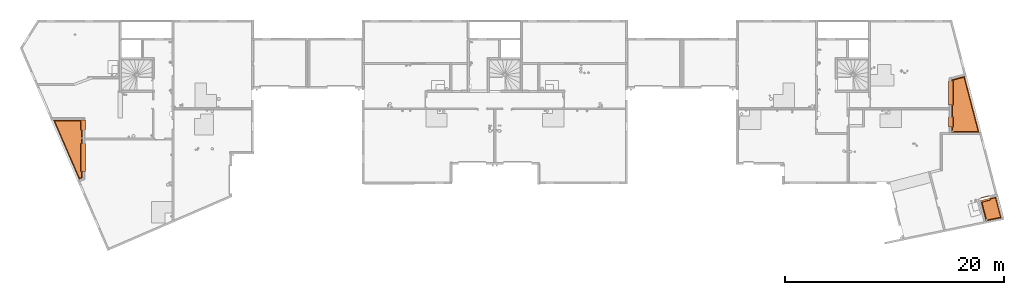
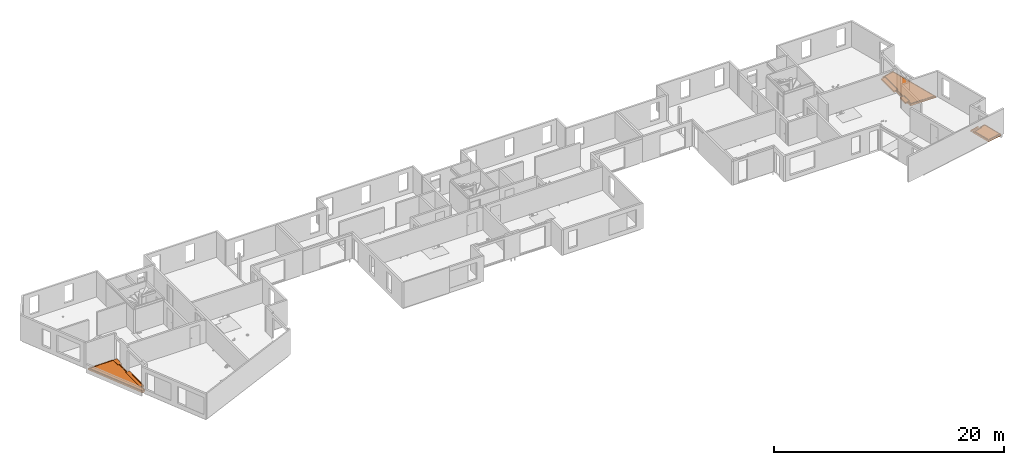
# One storey, part 30 of 30: 3 proxies.
"""IFC2X3 building model written with IfcOpenShell, lengths in centimetres."""

from ifc_helpers import new_model, entity, si_unit, converted_unit, derived_unit, direction, frame, origin, place, context, subcontext, project, spatial, faceted_brep, source, transform, mapped, material, type_object, type_shapes, element, save


model = new_model("IFC2X3")

# Units and contexts
model_context = context("Model", 3, precision=0.001, world=origin(), true_north=direction((6.12303176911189e-17, 1.0)))
body_context = subcontext(model_context, "Body", "Model", "MODEL_VIEW")
ifc_project = project(units=[si_unit("LENGTHUNIT", "METRE", prefix="CENTI"), si_unit("AREAUNIT", "SQUARE_METRE"), si_unit("VOLUMEUNIT", "CUBIC_METRE"), converted_unit("PLANEANGLEUNIT", "DEGREE", entity("IfcRatioMeasure", 0.0174532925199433), si_unit("PLANEANGLEUNIT", "RADIAN"), dimensions=[0, 0, 0, 0, 0, 0, 0]), si_unit("MASSUNIT", "GRAM", prefix="KILO"), derived_unit("MASSDENSITYUNIT", [(si_unit("MASSUNIT", "GRAM", prefix="KILO"), 1), (si_unit("LENGTHUNIT", "METRE"), -3)]), si_unit("TIMEUNIT", "SECOND"), si_unit("FREQUENCYUNIT", "HERTZ"), si_unit("THERMODYNAMICTEMPERATUREUNIT", "DEGREE_CELSIUS"), derived_unit("THERMALTRANSMITTANCEUNIT", [(si_unit("MASSUNIT", "GRAM", prefix="KILO"), 1), (si_unit("THERMODYNAMICTEMPERATUREUNIT", "KELVIN"), -1), (si_unit("TIMEUNIT", "SECOND"), -3)]), derived_unit("VOLUMETRICFLOWRATEUNIT", [(si_unit("LENGTHUNIT", "METRE"), 3), (si_unit("TIMEUNIT", "SECOND"), -1)]), si_unit("ELECTRICCURRENTUNIT", "AMPERE"), si_unit("ELECTRICVOLTAGEUNIT", "VOLT"), si_unit("POWERUNIT", "WATT"), si_unit("FORCEUNIT", "NEWTON"), si_unit("ILLUMINANCEUNIT", "LUX"), si_unit("LUMINOUSFLUXUNIT", "LUMEN"), si_unit("LUMINOUSINTENSITYUNIT", "CANDELA"), derived_unit("USERDEFINED", [(si_unit("MASSUNIT", "GRAM", prefix="KILO"), -1), (si_unit("LENGTHUNIT", "METRE"), -2), (si_unit("TIMEUNIT", "SECOND"), 3), (si_unit("LUMINOUSFLUXUNIT", "LUMEN"), 1)]), derived_unit("LINEARVELOCITYUNIT", [(si_unit("LENGTHUNIT", "METRE"), 1), (si_unit("TIMEUNIT", "SECOND"), -1)]), si_unit("PRESSUREUNIT", "PASCAL"), derived_unit("USERDEFINED", [(si_unit("LENGTHUNIT", "METRE"), -2), (si_unit("MASSUNIT", "GRAM", prefix="KILO"), 1), (si_unit("TIMEUNIT", "SECOND"), -2)])], contexts=[model_context])

# Site, building, storey
site_placement = place(None, origin())
site = spatial("IfcSite", under=ifc_project, at=site_placement, Name="Default", CompositionType="ELEMENT")
building_placement = place(site_placement, origin())
building = spatial("IfcBuilding", under=site, at=building_placement, Name="CAGE 03", CompositionType="ELEMENT")
storey_placement = place(building_placement, frame((0.0, 0.0, 610.0)))
storey = spatial("IfcBuildingStorey", under=building, at=storey_placement, Name="R+2", CompositionType="ELEMENT", Elevation=610.0)

# Proxies
ifc_material = material(Name="Béton, C25/30 balcon")
building_element_proxy_type_1 = type_object("IfcBuildingElementProxyType", Name="balcon CSP", PredefinedType="NOTDEFINED", material=ifc_material)
shared_shape_1 = source(origin(), body_context, "Body", "Brep", [
    faceted_brep([(292.715205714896, 329.810793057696, 0.0), (292.715205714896, 329.810793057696, 17.5), (292.715205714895, 74.8107930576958, 17.5), (292.715205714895, 74.8107930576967, 0.0), (286.715205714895, 74.8107930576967, 0.0), (268.715205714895, 74.8107930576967, 0.0), (268.715205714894, 14.0844099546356, 0.0), (236.163999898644, 0.0, 0.0), (0.0, 545.810793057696, 0.0), (268.715205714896, 545.810793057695, 0.0), (286.715205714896, 545.810793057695, 0.0), (292.715205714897, 545.810793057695, 0.0), (292.715205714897, 454.810793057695, 0.0), (286.715205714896, 454.810793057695, 0.0), (268.715205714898, 454.810793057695, 0.0), (268.715205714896, 329.810793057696, 0.0), (286.715205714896, 329.810793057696, 0.0), (268.715205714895, 74.8107930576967, 19.6099582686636), (268.715205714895, 74.8107930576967, 15.0), (262.277762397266, 74.8107930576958, 15.0), (262.675797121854, 74.8107930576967, 19.5495577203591), (285.715205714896, 329.810793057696, 15.9713250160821), (285.715205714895, 74.8107930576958, 15.9713250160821), (285.715205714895, 74.8107930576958, 15.0), (285.715205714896, 329.810793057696, 15.0), (268.715205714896, 329.810793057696, 15.0), (262.277762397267, 329.810793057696, 15.0), (262.277762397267, 454.810793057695, 15.0), (268.715205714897, 454.810793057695, 15.0), (285.715205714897, 454.810793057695, 15.0), (285.715205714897, 545.810793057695, 15.0), (268.715205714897, 545.810793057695, 15.0), (251.715205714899, 545.810793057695, 15.0), (251.715205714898, 539.373349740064, 15.0), (7.62039711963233, 539.373349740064, 15.0), (237.680215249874, 7.67024580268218, 15.0), (262.277762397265, 18.313229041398, 15.0), (251.715205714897, 329.810793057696, 15.0), (251.715205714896, 74.8107930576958, 15.0), (258.715205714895, 74.8107930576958, 15.0), (258.715205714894, 20.6535071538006, 15.0), (239.53511893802, 12.3545763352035, 15.0), (13.0436030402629, 535.810793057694, 15.0), (251.715205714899, 535.810793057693, 15.0), (251.715205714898, 454.810793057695, 15.0), (258.715205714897, 454.810793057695, 15.0), (258.715205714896, 329.810793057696, 15.0), (268.715205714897, 329.810793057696, 19.6099582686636), (268.715205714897, 454.810793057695, 19.6099582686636), (262.675797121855, 454.810793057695, 19.5495577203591), (262.675797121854, 329.810793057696, 19.549557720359), (249.739507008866, 329.810793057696, 19.4201809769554), (249.739507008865, 74.8107930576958, 19.4201809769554), (249.764508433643, 74.8107930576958, 16.9203059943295), (249.764508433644, 329.810793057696, 16.9203059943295), (251.715205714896, 74.8107930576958, 16.939815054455), (251.715205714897, 329.810793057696, 16.939815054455), (249.764508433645, 454.810793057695, 16.9203059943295), (249.739507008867, 454.810793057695, 19.4201809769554), (258.715205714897, 454.810793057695, 19.5099475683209), (251.715205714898, 454.810793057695, 16.939815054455), (292.715205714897, 454.810793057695, 17.5), (285.715205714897, 454.810793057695, 15.9713250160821), (292.715205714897, 545.810793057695, 17.5), (285.715205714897, 545.810793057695, 15.9713250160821), (251.715205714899, 545.810793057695, 16.939815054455), (0.0, 545.810793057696, 16.9225186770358), (249.739507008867, 545.810793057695, 19.4201809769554), (249.764508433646, 545.810793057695, 16.9203059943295), (249.739507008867, 539.760065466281, 19.4201809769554), (249.764508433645, 539.541354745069, 16.9203059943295), (251.715205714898, 539.543061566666, 16.939815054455), (268.715205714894, 14.0844099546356, 19.6099582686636), (258.715205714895, 74.8107930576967, 19.5099475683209), (258.715205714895, 20.653507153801, 19.5099475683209), (262.675797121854, 18.0517561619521, 19.5495577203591), (13.0436030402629, 535.810793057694, 17.0529686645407), (249.739507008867, 535.810793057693, 19.4201809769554), (249.764508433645, 535.810793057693, 16.9203059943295), (251.715205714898, 535.810793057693, 16.939815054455), (7.35455590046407, 539.547983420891, 16.9960721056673), (258.715205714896, 329.810793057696, 19.5099475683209), (239.53511893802, 12.3545763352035, 19.318126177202), (237.484448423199, 7.17586082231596, 19.2976172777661), (236.163999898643, 0.0, 19.2844113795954)], [[[0, 1, 2, 3]], [[0, 3, 4, 5, 6, 7, 8, 9, 10, 11, 12, 13, 14, 15, 16]], [[17, 18, 19, 20]], [[1, 21, 22, 2]], [[23, 24, 25, 26, 27, 28, 29, 30, 31, 32, 33, 34, 35, 36, 19, 18], [37, 38, 39, 40, 41, 42, 43, 44, 45, 46]], [[21, 24, 23, 22]], [[47, 48, 49, 50]], [[51, 52, 53, 54]], [[54, 53, 55, 56]], [[56, 55, 38, 37]], [[25, 47, 50, 26]], [[3, 2, 22, 23, 18, 5, 4]], [[57, 58, 59, 45, 44, 60]], [[12, 61, 62, 29, 28, 14, 13]], [[11, 63, 61, 12]], [[63, 64, 62, 61]], [[64, 30, 29, 62]], [[65, 32, 31, 30, 64, 63, 11, 10, 9, 8, 66, 67, 68]], [[68, 67, 69, 70]], [[65, 68, 70, 71]], [[32, 65, 71, 33]], [[24, 21, 1, 0, 16, 15, 25]], [[18, 17, 72, 6, 5]], [[48, 47, 25, 15, 14, 28]], [[40, 39, 73, 74]], [[19, 36, 75, 20]], [[43, 42, 76, 77, 78, 79]], [[34, 33, 71, 70, 69, 80]], [[46, 45, 59, 81]], [[27, 26, 50, 49]], [[41, 40, 74, 82]], [[36, 35, 83, 75]], [[42, 41, 82, 76]], [[35, 34, 80, 83]], [[84, 7, 6, 72]], [[7, 84, 66, 8]], [[60, 44, 43, 79]], [[57, 60, 79, 78]], [[58, 57, 78, 77]], [[48, 28, 27, 49]], [[51, 54, 56, 37, 46, 81]], [[52, 51, 81, 59, 58, 77, 76, 82, 74, 73]], [[17, 20, 75, 83, 80, 69, 67, 66, 84, 72]], [[53, 52, 73, 39, 38, 55]]]),
])
type_shapes(building_element_proxy_type_1, [shared_shape_1])
proxy_1_placement = place(storey_placement, frame((3050.15061442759, 3835.84987301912, -20.0)))
element("IfcBuildingElementProxy", 1, at=proxy_1_placement, inside=storey, type_object=building_element_proxy_type_1, material=ifc_material, Name="BY_STR_Balcon_CSP_01:balcon CSP", ObjectType="balcon CSP", context=body_context, shape_type="MappedRepresentation", body=[
    mapped(shared_shape_1, transform((0.0, 0.0, 0.0), scale=1.0)),
])
building_element_proxy_type_2 = type_object("IfcBuildingElementProxyType", Name="balcon CSP", PredefinedType="NOTDEFINED", material=ifc_material)
shared_shape_2 = source(origin(), body_context, "Body", "Brep", [
    faceted_brep([(42.9756987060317, 250.0, 19.4201809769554), (42.9756987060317, 470.0, 19.4201809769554), (42.9506972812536, 470.0, 16.9203059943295), (42.9506972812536, 250.0, 16.9203059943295), (0.0, 250.0, 17.5), (7.0, 250.0, 15.9713250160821), (7.0, 470.0, 15.9713250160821), (0.0, 470.0, 17.5), (24.0, 470.0, 19.6099582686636), (24.0, 470.0, 15.0), (30.4374433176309, 470.0, 15.0), (30.0394085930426, 470.0, 19.549557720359), (7.0, 250.0, 15.0), (0.0, 250.0, 0.0), (6.0, 250.0, 0.0), (24.0, 250.0, 0.0), (24.0, 250.0, 15.0), (0.0, 470.0, 0.0), (7.0, 470.0, 15.0), (24.0, 470.0, 0.0), (6.0, 470.0, 0.0), (41.0, 470.0, 16.939815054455), (41.0, 250.0, 16.939815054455), (24.0, 483.640736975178, 0.0), (144.531483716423, 515.118033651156, 0.0), (279.056693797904, 0.0, 0.0), (24.0, 0.0, 0.0), (24.0, 50.0, 0.0), (6.0, 50.0, 0.0), (0.0, 50.0, 0.0), (0.0, 141.0, 0.0), (6.0, 141.0, 0.0), (24.0, 141.0, 0.0), (41.0, 50.0, 16.939815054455), (41.0, 141.0, 16.939815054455), (41.0, 141.0, 15.0), (41.0, 50.0, 15.0), (24.0, 483.640736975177, 19.6099582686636), (24.0, 250.0, 19.6099582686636), (30.0394085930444, 250.0, 19.5495577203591), (30.4374433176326, 250.0, 15.0), (24.0, 50.0, 19.6099582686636), (30.0394085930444, 50.0, 19.5495577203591), (30.4374433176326, 50.0, 15.0), (24.0, 50.0, 15.0), (0.0, 141.0, 17.5), (7.0, 141.0, 15.9713250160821), (7.0, 141.0, 15.0), (24.0, 141.0, 15.0), (0.0, 50.0, 17.5), (7.0, 50.0, 15.9713250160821), (7.0, 50.0, 15.0), (42.9756987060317, 50.0, 19.4201809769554), (42.9756987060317, 141.0, 19.4201809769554), (42.9506972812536, 141.0, 16.9203059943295), (42.9506972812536, 50.0, 16.9203059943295), (41.0, 470.0, 15.0), (41.0, 250.0, 15.0), (34.0, 141.0, 19.5099475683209), (34.0, 141.0, 15.0), (24.0, 0.0, 19.6099582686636), (279.056693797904, 0.0, 17.0591184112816), (34.0, 250.0, 19.5099475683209), (34.0, 50.0, 19.5099475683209), (34.0, 10.0, 19.5099475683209), (268.176845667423, 10.0, 17.1679285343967), (139.317880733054, 503.421096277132, 18.4566560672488), (34.0, 475.916895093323, 19.5099475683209), (34.0, 470.0, 19.5099475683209), (34.0, 470.0, 15.0), (34.0, 475.916895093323, 15.0), (139.317880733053, 503.421096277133, 15.0), (268.176845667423, 10.0, 15.0), (34.0, 10.0, 15.0), (34.0, 50.0, 15.0), (34.0, 250.0, 15.0), (30.4374433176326, 6.4374433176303, 15.0), (272.789261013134, 6.43744331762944, 15.0), (141.864646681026, 507.768233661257, 15.0), (30.4374433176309, 478.668557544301, 15.0), (30.4374433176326, 141.0, 15.0), (24.0, 141.0, 19.6099582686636), (30.0394085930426, 478.975993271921, 19.5495577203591), (30.0394085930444, 141.0, 19.549557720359), (142.079109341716, 508.134305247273, 18.429040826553), (273.029327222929, 6.25201997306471, 17.1193985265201), (144.531483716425, 515.118033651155, 18.4045144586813), (30.0394085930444, 6.03940859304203, 19.549557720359)], [[[0, 1, 2, 3]], [[4, 5, 6, 7]], [[8, 9, 10, 11]], [[12, 5, 4, 13, 14, 15, 16]], [[17, 7, 6, 18, 9, 19, 20]], [[3, 2, 21, 22]], [[13, 17, 20, 19, 23, 24, 25, 26, 27, 28, 29, 30, 31, 32, 15, 14]], [[33, 34, 35, 36]], [[5, 12, 18, 6]], [[9, 8, 37, 23, 19]], [[16, 38, 39, 40]], [[41, 42, 43, 44]], [[13, 4, 7, 17]], [[30, 45, 46, 47, 48, 32, 31]], [[29, 49, 45, 30]], [[49, 50, 46, 45]], [[50, 51, 47, 46]], [[51, 50, 49, 29, 28, 27, 44]], [[52, 53, 54, 55]], [[55, 54, 34, 33]], [[22, 21, 56, 57]], [[54, 53, 58, 59, 35, 34]], [[60, 26, 25, 61]], [[1, 0, 62, 58, 53, 52, 63, 64, 65, 66, 67, 68]], [[57, 56, 69, 70, 71, 72, 73, 74, 36, 35, 59, 75], [44, 43, 76, 77, 78, 79, 10, 9, 18, 12, 16, 40, 80, 48, 47, 51]], [[81, 38, 16, 15, 32, 48]], [[70, 69, 68, 67]], [[10, 79, 82, 11]], [[75, 59, 58, 62]], [[80, 40, 39, 83]], [[71, 70, 67, 66]], [[79, 78, 84, 82]], [[72, 71, 66, 65]], [[78, 77, 85, 84]], [[86, 24, 23, 37]], [[25, 24, 86, 61]], [[26, 60, 41, 44, 27]], [[74, 73, 64, 63]], [[76, 43, 42, 87]], [[73, 72, 65, 64]], [[77, 76, 87, 85]], [[38, 81, 83, 39]], [[8, 11, 82, 84, 85, 87, 42, 41, 60, 61, 86, 37]], [[81, 48, 80, 83]], [[74, 63, 52, 55, 33, 36]], [[0, 3, 22, 57, 75, 62]], [[2, 1, 68, 69, 56, 21]]], outer=[[True], [True], [True], [True], [True], [True], [True], [True], [True], [True], [True], [True], [True], [True], [True], [True], [True], [True], [True], [True], [True], [True], [True], [True], [False, True], [True], [True], [True], [True], [True], [True], [True], [True], [True], [True], [True], [True], [True], [True], [True], [True], [True], [True], [True], [True], [True], [True]]),
])
type_shapes(building_element_proxy_type_2, [shared_shape_2])
proxy_2_placement = place(storey_placement, frame((11224.3658201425, 4266.66066607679, -20.0)))
element("IfcBuildingElementProxy", 2, at=proxy_2_placement, inside=storey, type_object=building_element_proxy_type_2, material=ifc_material, Name="BY_STR_Balcon_CSP_02:balcon CSP", ObjectType="balcon CSP", context=body_context, shape_type="MappedRepresentation", body=[
    mapped(shared_shape_2, transform((0.0, 0.0, 0.0), scale=1.0)),
])
building_element_proxy_type_3 = type_object("IfcBuildingElementProxyType", Name="balcon CSP", PredefinedType="NOTDEFINED", material=ifc_material)
shared_shape_3 = source(origin(), body_context, "Body", "Brep", [
    faceted_brep([(10.3598672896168, 173.160925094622, 16.939815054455), (16.4242108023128, 174.74465354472, 16.939815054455), (16.5884154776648, 174.787536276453, 15.0), (10.3598672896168, 173.160925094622, 15.0), (62.8588143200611, 11.7100564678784, 17.7449866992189), (20.5345860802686, 173.776134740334, 19.4201809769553), (20.5282687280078, 173.800324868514, 16.9203059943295), (20.0353671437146, 175.687721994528, 16.939815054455), (20.0353671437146, 175.687721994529, 15.0), (62.8588143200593, 11.710056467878, 15.0), (145.911866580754, 219.889083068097, 19.549557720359), (95.6373971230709, 206.759696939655, 19.549557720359), (95.7379724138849, 206.374578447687, 15.0), (145.627323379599, 219.403389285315, 15.0), (143.080557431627, 215.05625190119, 19.5099475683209), (189.375509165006, 37.7856533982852, 17.6775919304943), (189.375509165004, 37.7856533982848, 15.0), (143.080557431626, 215.05625190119, 15.0), (60.0937807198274, 7.26075435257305, 17.7089202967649), (194.055606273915, 34.8771914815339, 17.637621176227), (193.770898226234, 35.0541242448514, 15.0), (60.2662514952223, 7.53828247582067, 15.0), (10.85276887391, 171.273527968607, 16.9203059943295), (10.8590862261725, 171.249337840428, 19.4201809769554), (16.7134676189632, 172.778233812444, 19.4201809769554), (16.9187638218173, 172.857687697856, 16.9203059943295), (98.9061348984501, 194.243189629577, 19.4201809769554), (96.6381581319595, 202.927626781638, 19.5099475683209), (96.6381581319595, 202.927626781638, 15.0), (98.4069159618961, 196.154776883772, 15.0), (98.4069159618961, 196.154776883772, 16.939815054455), (98.8998175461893, 194.267379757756, 16.9203059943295), (55.5815607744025, 0.0, 17.6500640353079), (199.751747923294, 29.714052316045, 17.5732653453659), (148.294160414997, 226.753189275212, 19.6099582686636), (94.1113612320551, 212.603126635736, 19.6099582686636), (6.06431255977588, 189.609274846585, 15.0), (6.06431255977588, 189.609274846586, 0.0), (55.5815607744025, 0.0, 0.0), (148.294160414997, 226.753189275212, 0.0), (94.1113612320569, 212.603126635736, 15.0), (199.751747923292, 29.714052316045, 0.0)], [[[0, 1, 2, 3]], [[4, 5, 6, 7, 8, 9]], [[10, 11, 12, 13]], [[14, 15, 16, 17]], [[18, 19, 20, 21]], [[22, 23, 24, 25]], [[26, 27, 28, 29, 30, 31]], [[23, 32, 33, 34, 35, 11, 10, 19, 18, 24]], [[13, 20, 19, 10]], [[3, 36, 37, 38, 32, 23, 22, 0]], [[34, 39, 37, 36, 40, 35]], [[0, 22, 25, 1]], [[36, 3, 2, 21, 20, 13, 12, 40], [28, 17, 16, 9, 8, 29]], [[39, 34, 33, 41]], [[24, 18, 21, 2, 1, 25]], [[27, 14, 17, 28]], [[32, 38, 41, 33]], [[15, 4, 9, 16]], [[7, 30, 29, 8]], [[5, 26, 31, 6]], [[35, 40, 12, 11]], [[26, 5, 4, 15, 14, 27]], [[6, 31, 30, 7]], [[37, 39, 41, 38]]]),
    faceted_brep([(88.0470486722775, 235.824326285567, 0.0), (88.0470486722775, 235.824326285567, 17.5), (89.5631268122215, 230.019026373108, 16.1897071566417), (89.5631268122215, 230.019026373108, 0.0), (0.0, 212.830474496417, 0.0), (0.0, 212.830474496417, 17.5), (1.51607813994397, 207.025174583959, 16.1897071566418), (1.5160781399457, 207.02517458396, 0.0)], [[[0, 1, 2, 3]], [[4, 5, 1, 0]], [[1, 5, 6, 2]], [[4, 0, 3, 7]], [[3, 2, 6, 7]], [[5, 4, 7, 6]]]),
])
type_shapes(building_element_proxy_type_3, [shared_shape_3])
proxy_3_placement = place(storey_placement, frame((11507.6472712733, 3455.88872702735, -20.0)))
element("IfcBuildingElementProxy", 3, at=proxy_3_placement, inside=storey, type_object=building_element_proxy_type_3, material=ifc_material, Name="BY_STR_Balcon_CSP_03:balcon CSP", ObjectType="balcon CSP", context=body_context, shape_type="MappedRepresentation", body=[
    mapped(shared_shape_3, transform((0.0, 0.0, 0.0), scale=1.0)),
])

save(model, "model.ifc")
